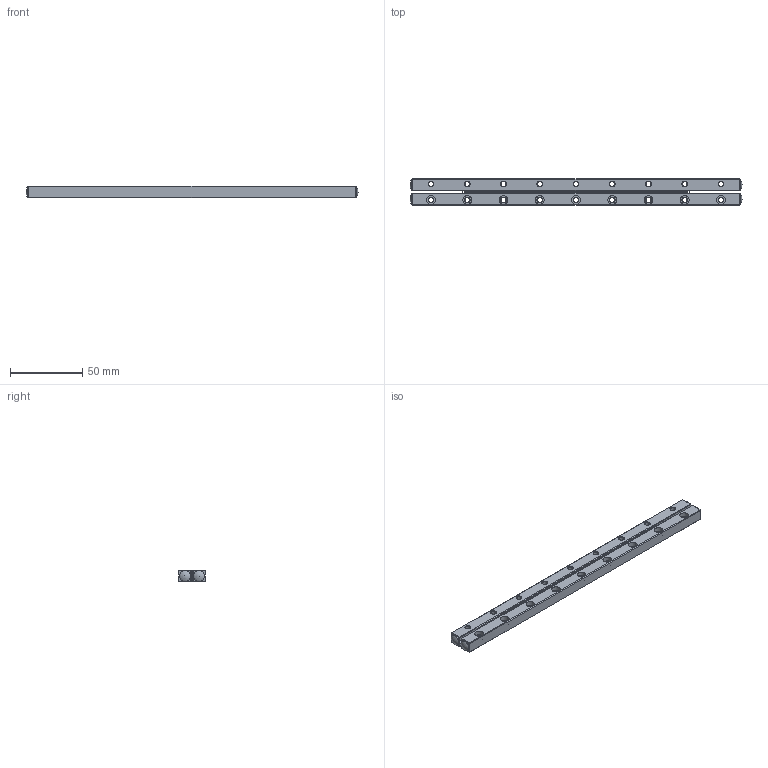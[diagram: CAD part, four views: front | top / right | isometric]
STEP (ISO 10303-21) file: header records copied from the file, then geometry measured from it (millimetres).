
FILE_DESCRIPTION(/* description */ ('Unknown'),/* implementation_level */ '2;1');
FILE_NAME(/* name */ 'VR3-225x31Z',/* time_stamp */ '2025-06-12T09:16:12+08:00',/* author */ ('Unknown'),/* organization */ ('Unknown'),/* preprocessor_version */ 'ST-DEVELOPER v18.102',/* originating_system */ 'Solid Edge',/* authorisation */ 'Unknown');
FILE_SCHEMA (('AUTOMOTIVE_DESIGN {1 0 10303 214 3 1 1}'));
Length unit declared in the file: millimetre
Products named in the file (4): VR3-225x31Z; VR3-225_31Z Roller guide; VR3-225_31Z Roller cage; VR3-225_31Z Roller guide; Top
Assembly tree (3 placements, depth 2):
  VR3-225x31Z
    VR3-225_31Z Roller guide
    VR3-225_31Z Roller cage
    VR3-225_31Z Roller guide; Top
Bounding box: 229 x 18 x 8 mm (x, y, z)
Volume: 27632.8 mm3; surface area: 19854.8 mm2
Topology: 3 solids, 3 shells, 479 faces, 1271 edges, 812 vertices
Faces by surface type: plane 306, cone 102, cylinder 67, torus 4
Full cylindrical faces by diameter (mm): 3 x31, 3.3 x18, 6 x18
Entity records: 14229 total; most frequent: DIRECTION 2420, CARTESIAN_POINT 2373, ORIENTED_EDGE 2172, EDGE_CURVE 1086, AXIS2_PLACEMENT_3D 851, FACE_BOUND 830, EDGE_LOOP 826, VERTEX_POINT 804
